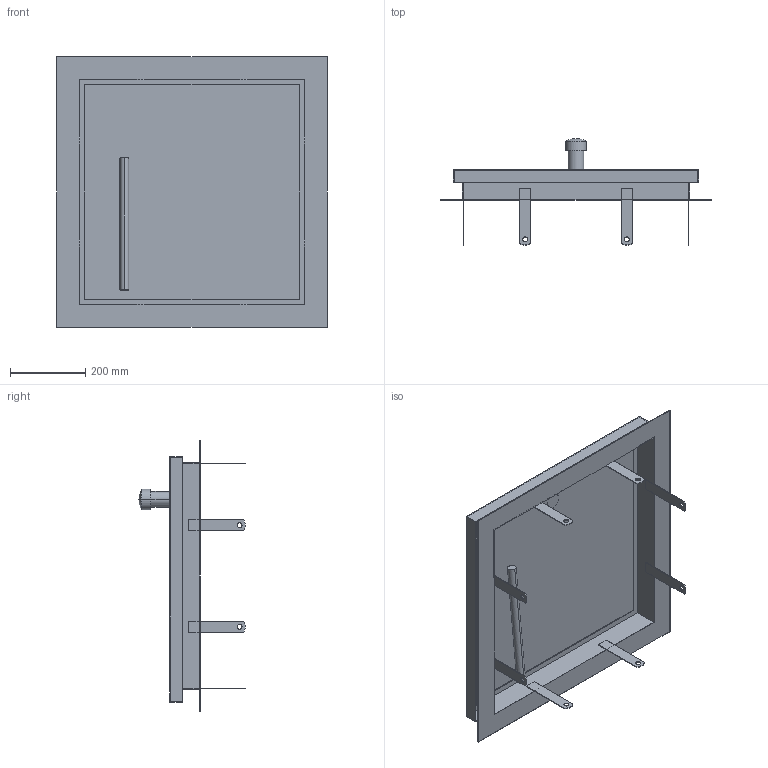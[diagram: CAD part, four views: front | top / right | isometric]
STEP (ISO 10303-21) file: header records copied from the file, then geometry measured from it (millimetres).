
FILE_DESCRIPTION((''),'2;1');
FILE_NAME('017_000105','2018-05-07T',('gm'),('HUBER SE'),'PRO/ENGINEER BY PARAMETRIC TECHNOLOGY CORPORATION, 2017170','PRO/ENGINEER BY PARAMETRIC TECHNOLOGY CORPORATION, 2017170','');
FILE_SCHEMA(('AUTOMOTIVE_DESIGN { 1 0 10303 214 1 1 1 1 }'));
Length unit declared in the file: millimetre
Products named in the file (1): 017_000105
Bounding box: 720 x 283 x 720 mm (x, y, z)
Volume: 2055944.8 mm3; surface area: 1818044.1 mm2
Topology: 3 solids, 3 shells, 106 faces, 270 edges, 173 vertices
Faces by surface type: plane 74, cylinder 30, sphere 2
Entity records: 3793 total; most frequent: CARTESIAN_POINT 558, DIRECTION 555, ORIENTED_EDGE 536, EDGE_CURVE 268, VECTOR 206, LINE 206, AXIS2_PLACEMENT_3D 173, VERTEX_POINT 173
